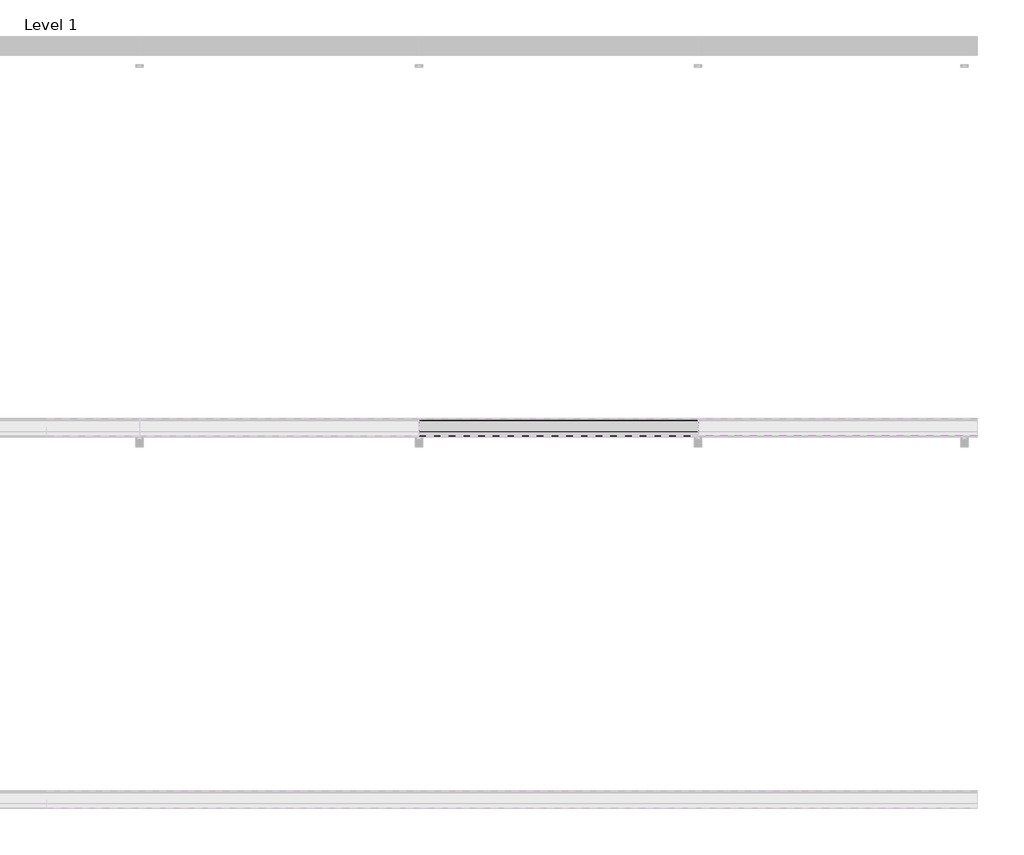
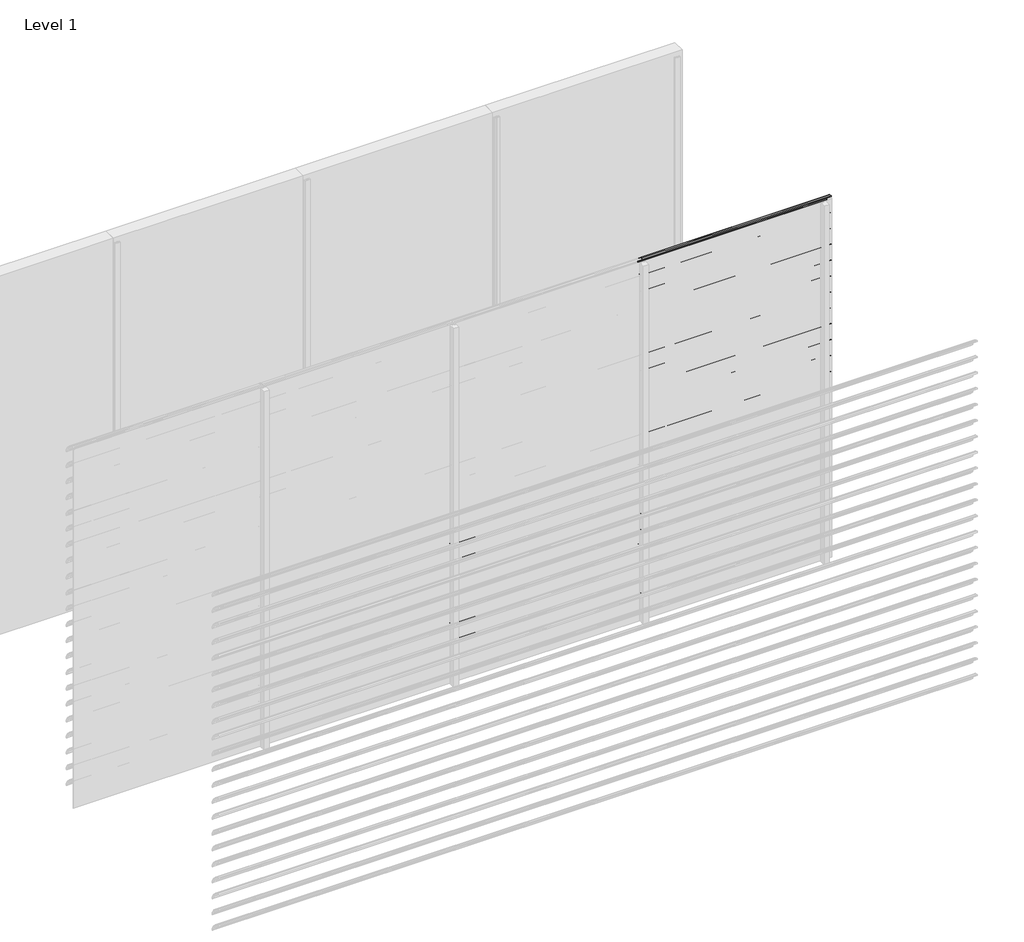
# One storey, part 29 of 57: 20 proxies.
"""IFC4 building model written with IfcOpenShell, lengths in millimetres."""

from ifc_helpers import new_model, si_unit, point, frame, frame_2d, origin, place, context, project, spatial, polyline, circle_curve, trimmed, segment, composite_curve, outline, extrude, element, save

model = new_model("IFC4")

# Units and contexts
model_context = context("Model", 3, world=origin())
ifc_project = project(units=[si_unit("LENGTHUNIT", "METRE", prefix="MILLI")], contexts=[model_context])

# Site, building, storey
site = spatial("IfcSite", under=ifc_project)
building = spatial("IfcBuilding", under=site)
storey = spatial("IfcBuildingStorey", under=building, Name="Level 1", Elevation=0.0)

# Proxies
placement = place(None, origin())
element("IfcBuildingElementProxy", 1, Name="Wall Sweeps", at=placement, inside=storey, context=model_context, shape_type="SweptSolid", body=[
    extrude(outline(composite_curve([segment(trimmed(circle_curve(frame_2d((-29993.7822526, 1154.4913792)), 4.2177474), [point((-29989.6985606, 1155.5462976))], [point((-29993.7822526, 1158.7091266))], False, "CARTESIAN"), True, "CONTINUOUS"), segment(trimmed(circle_curve(frame_2d((-30018.7150834, 1056.2536312)), 105.4456002), [point((-29993.7822526, 1158.7091266))], [point((-29971.7914298, 1150.6832099))], False, "CARTESIAN"), True, "CONTINUOUS"), segment(trimmed(circle_curve(frame_2d((-30061.7199745, 1002.0352476)), 173.7335887), [point((-29971.7914298, 1150.6832099))], [point((-29913.0720121, 1091.9637922))], False, "CARTESIAN"), True, "CONTINUOUS"), segment(trimmed(circle_curve(frame_2d((-30004.9297178, 1040.1860314)), 105.4456002), [point((-29913.0720121, 1091.9637922))], [point((-29903.6249616, 1069.4455765))], False, "CARTESIAN"), True, "CONTINUOUS"), segment(trimmed(circle_curve(frame_2d((-29907.809737, 1068.3307305)), 4.3307305), [point((-29903.6249616, 1069.4455765))], [point((-29909.0769196, 1064.189538))], False, "CARTESIAN"), True, "CONTINUOUS"), segment(polyline([(-29909.0769196, 1064.189538), (-29934.7401984, 1088.9722783)]), True, "CONTINUOUS"), segment(trimmed(circle_curve(frame_2d((-29931.3879574, 1091.2977626)), 4.079877), [point((-29934.7401984, 1088.9722783))], [point((-29930.7310597, 1095.3244091))], False, "CARTESIAN"), True, "CONTINUOUS"), segment(trimmed(circle_curve(frame_2d((-30014.6665585, 1073.2544323)), 86.7885467), [point((-29930.7310597, 1095.3244091))], [point((-29942.3028351, 1121.1683485))], True, "CARTESIAN"), True, "CONTINUOUS"), segment(polyline([(-29942.3028351, 1121.1683485), (-29940.7230099, 1123.9046861)]), True, "CONTINUOUS"), segment(trimmed(circle_curve(frame_2d((-30061.7199745, 1002.0352476)), 171.7335887), [point((-29940.7230099, 1123.9046861))], [point((-29972.7555872, 1148.9289618))], True, "CARTESIAN"), True, "CONTINUOUS"), segment(trimmed(circle_curve(frame_2d((-30018.7150834, 1056.2536312)), 103.4456002), [point((-29972.7555872, 1148.9289618))], [point((-29989.6985606, 1155.5462976))], True, "CARTESIAN"), True, "CONTINUOUS")], self_intersect=False)), frame((3000.0, 0.0, 0.0), z_axis=(1.0, 0.0, 0.0), x_axis=(0.0, 1.0, 0.0)), (0.0, 0.0, 1.0), 1500.0),
])
element("IfcBuildingElementProxy", 2, Name="Wall Sweeps", at=placement, inside=storey, context=model_context, shape_type="SweptSolid", body=[
    extrude(outline(composite_curve([segment(trimmed(circle_curve(frame_2d((-29993.7822526, 1021.4913792)), 4.2177474), [point((-29989.6985606, 1022.5462976))], [point((-29993.7822526, 1025.7091266))], False, "CARTESIAN"), True, "CONTINUOUS"), segment(trimmed(circle_curve(frame_2d((-30018.7150834, 923.2536312)), 105.4456002), [point((-29993.7822526, 1025.7091266))], [point((-29971.7914298, 1017.6832099))], False, "CARTESIAN"), True, "CONTINUOUS"), segment(trimmed(circle_curve(frame_2d((-30061.7199745, 869.0352476)), 173.7335887), [point((-29971.7914298, 1017.6832099))], [point((-29913.0720121, 958.9637922))], False, "CARTESIAN"), True, "CONTINUOUS"), segment(trimmed(circle_curve(frame_2d((-30004.9297178, 907.1860314)), 105.4456002), [point((-29913.0720121, 958.9637922))], [point((-29903.6249616, 936.4455765))], False, "CARTESIAN"), True, "CONTINUOUS"), segment(trimmed(circle_curve(frame_2d((-29907.809737, 935.3307305)), 4.3307305), [point((-29903.6249616, 936.4455765))], [point((-29909.0769196, 931.189538))], False, "CARTESIAN"), True, "CONTINUOUS"), segment(polyline([(-29909.0769196, 931.189538), (-29934.7401984, 955.9722783)]), True, "CONTINUOUS"), segment(trimmed(circle_curve(frame_2d((-29931.3879574, 958.2977626)), 4.079877), [point((-29934.7401984, 955.9722783))], [point((-29930.7310597, 962.3244091))], False, "CARTESIAN"), True, "CONTINUOUS"), segment(trimmed(circle_curve(frame_2d((-30014.6665585, 940.2544323)), 86.7885467), [point((-29930.7310597, 962.3244091))], [point((-29942.3028351, 988.1683485))], True, "CARTESIAN"), True, "CONTINUOUS"), segment(polyline([(-29942.3028351, 988.1683485), (-29940.7230099, 990.9046861)]), True, "CONTINUOUS"), segment(trimmed(circle_curve(frame_2d((-30061.7199745, 869.0352476)), 171.7335887), [point((-29940.7230099, 990.9046861))], [point((-29972.7555872, 1015.9289618))], True, "CARTESIAN"), True, "CONTINUOUS"), segment(trimmed(circle_curve(frame_2d((-30018.7150834, 923.2536312)), 103.4456002), [point((-29972.7555872, 1015.9289618))], [point((-29989.6985606, 1022.5462976))], True, "CARTESIAN"), True, "CONTINUOUS")], self_intersect=False)), frame((3000.0, 0.0, 0.0), z_axis=(1.0, 0.0, 0.0), x_axis=(0.0, 1.0, 0.0)), (0.0, 0.0, 1.0), 1500.0),
])
element("IfcBuildingElementProxy", 3, Name="Wall Sweeps", at=placement, inside=storey, context=model_context, shape_type="SweptSolid", body=[
    extrude(outline(composite_curve([segment(trimmed(circle_curve(frame_2d((-29993.7822526, 888.4913792)), 4.2177474), [point((-29989.6985606, 889.5462976))], [point((-29993.7822526, 892.7091266))], False, "CARTESIAN"), True, "CONTINUOUS"), segment(trimmed(circle_curve(frame_2d((-30018.7150834, 790.2536312)), 105.4456002), [point((-29993.7822526, 892.7091266))], [point((-29971.7914298, 884.6832099))], False, "CARTESIAN"), True, "CONTINUOUS"), segment(trimmed(circle_curve(frame_2d((-30061.7199745, 736.0352476)), 173.7335887), [point((-29971.7914298, 884.6832099))], [point((-29913.0720121, 825.9637922))], False, "CARTESIAN"), True, "CONTINUOUS"), segment(trimmed(circle_curve(frame_2d((-30004.9297178, 774.1860314)), 105.4456002), [point((-29913.0720121, 825.9637922))], [point((-29903.6249616, 803.4455765))], False, "CARTESIAN"), True, "CONTINUOUS"), segment(trimmed(circle_curve(frame_2d((-29907.809737, 802.3307305)), 4.3307305), [point((-29903.6249616, 803.4455765))], [point((-29909.0769196, 798.189538))], False, "CARTESIAN"), True, "CONTINUOUS"), segment(polyline([(-29909.0769196, 798.189538), (-29934.7401984, 822.9722783)]), True, "CONTINUOUS"), segment(trimmed(circle_curve(frame_2d((-29931.3879574, 825.2977626)), 4.079877), [point((-29934.7401984, 822.9722783))], [point((-29930.7310597, 829.3244091))], False, "CARTESIAN"), True, "CONTINUOUS"), segment(trimmed(circle_curve(frame_2d((-30014.6665585, 807.2544323)), 86.7885467), [point((-29930.7310597, 829.3244091))], [point((-29942.3028351, 855.1683485))], True, "CARTESIAN"), True, "CONTINUOUS"), segment(polyline([(-29942.3028351, 855.1683485), (-29940.7230099, 857.9046861)]), True, "CONTINUOUS"), segment(trimmed(circle_curve(frame_2d((-30061.7199745, 736.0352476)), 171.7335887), [point((-29940.7230099, 857.9046861))], [point((-29972.7555872, 882.9289618))], True, "CARTESIAN"), True, "CONTINUOUS"), segment(trimmed(circle_curve(frame_2d((-30018.7150834, 790.2536312)), 103.4456002), [point((-29972.7555872, 882.9289618))], [point((-29989.6985606, 889.5462976))], True, "CARTESIAN"), True, "CONTINUOUS")], self_intersect=False)), frame((3000.0, 0.0, 0.0), z_axis=(1.0, 0.0, 0.0), x_axis=(0.0, 1.0, 0.0)), (0.0, 0.0, 1.0), 1500.0),
])
element("IfcBuildingElementProxy", 4, Name="Wall Sweeps", at=placement, inside=storey, context=model_context, shape_type="SweptSolid", body=[
    extrude(outline(composite_curve([segment(trimmed(circle_curve(frame_2d((-29993.7822526, 755.4913792)), 4.2177474), [point((-29989.6985606, 756.5462976))], [point((-29993.7822526, 759.7091266))], False, "CARTESIAN"), True, "CONTINUOUS"), segment(trimmed(circle_curve(frame_2d((-30018.7150834, 657.2536312)), 105.4456002), [point((-29993.7822526, 759.7091266))], [point((-29971.7914298, 751.6832099))], False, "CARTESIAN"), True, "CONTINUOUS"), segment(trimmed(circle_curve(frame_2d((-30061.7199745, 603.0352476)), 173.7335887), [point((-29971.7914298, 751.6832099))], [point((-29913.0720121, 692.9637922))], False, "CARTESIAN"), True, "CONTINUOUS"), segment(trimmed(circle_curve(frame_2d((-30004.9297178, 641.1860314)), 105.4456002), [point((-29913.0720121, 692.9637922))], [point((-29903.6249616, 670.4455765))], False, "CARTESIAN"), True, "CONTINUOUS"), segment(trimmed(circle_curve(frame_2d((-29907.809737, 669.3307305)), 4.3307305), [point((-29903.6249616, 670.4455765))], [point((-29909.0769196, 665.189538))], False, "CARTESIAN"), True, "CONTINUOUS"), segment(polyline([(-29909.0769196, 665.189538), (-29934.7401984, 689.9722783)]), True, "CONTINUOUS"), segment(trimmed(circle_curve(frame_2d((-29931.3879574, 692.2977626)), 4.079877), [point((-29934.7401984, 689.9722783))], [point((-29930.7310597, 696.3244091))], False, "CARTESIAN"), True, "CONTINUOUS"), segment(trimmed(circle_curve(frame_2d((-30014.6665585, 674.2544323)), 86.7885467), [point((-29930.7310597, 696.3244091))], [point((-29942.3028351, 722.1683485))], True, "CARTESIAN"), True, "CONTINUOUS"), segment(polyline([(-29942.3028351, 722.1683485), (-29940.7230099, 724.9046861)]), True, "CONTINUOUS"), segment(trimmed(circle_curve(frame_2d((-30061.7199745, 603.0352476)), 171.7335887), [point((-29940.7230099, 724.9046861))], [point((-29972.7555872, 749.9289618))], True, "CARTESIAN"), True, "CONTINUOUS"), segment(trimmed(circle_curve(frame_2d((-30018.7150834, 657.2536312)), 103.4456002), [point((-29972.7555872, 749.9289618))], [point((-29989.6985606, 756.5462976))], True, "CARTESIAN"), True, "CONTINUOUS")], self_intersect=False)), frame((3000.0, 0.0, 0.0), z_axis=(1.0, 0.0, 0.0), x_axis=(0.0, 1.0, 0.0)), (0.0, 0.0, 1.0), 1500.0),
])
element("IfcBuildingElementProxy", 5, Name="Wall Sweeps", at=placement, inside=storey, context=model_context, shape_type="SweptSolid", body=[
    extrude(outline(composite_curve([segment(trimmed(circle_curve(frame_2d((-29993.7822526, 622.4913792)), 4.2177474), [point((-29989.6985606, 623.5462976))], [point((-29993.7822526, 626.7091266))], False, "CARTESIAN"), True, "CONTINUOUS"), segment(trimmed(circle_curve(frame_2d((-30018.7150834, 524.2536312)), 105.4456002), [point((-29993.7822526, 626.7091266))], [point((-29971.7914298, 618.6832099))], False, "CARTESIAN"), True, "CONTINUOUS"), segment(trimmed(circle_curve(frame_2d((-30061.7199745, 470.0352476)), 173.7335887), [point((-29971.7914298, 618.6832099))], [point((-29913.0720121, 559.9637922))], False, "CARTESIAN"), True, "CONTINUOUS"), segment(trimmed(circle_curve(frame_2d((-30004.9297178, 508.1860314)), 105.4456002), [point((-29913.0720121, 559.9637922))], [point((-29903.6249616, 537.4455765))], False, "CARTESIAN"), True, "CONTINUOUS"), segment(trimmed(circle_curve(frame_2d((-29907.809737, 536.3307305)), 4.3307305), [point((-29903.6249616, 537.4455765))], [point((-29909.0769196, 532.189538))], False, "CARTESIAN"), True, "CONTINUOUS"), segment(polyline([(-29909.0769196, 532.189538), (-29934.7401984, 556.9722783)]), True, "CONTINUOUS"), segment(trimmed(circle_curve(frame_2d((-29931.3879574, 559.2977626)), 4.079877), [point((-29934.7401984, 556.9722783))], [point((-29930.7310597, 563.3244091))], False, "CARTESIAN"), True, "CONTINUOUS"), segment(trimmed(circle_curve(frame_2d((-30014.6665585, 541.2544323)), 86.7885467), [point((-29930.7310597, 563.3244091))], [point((-29942.3028351, 589.1683485))], True, "CARTESIAN"), True, "CONTINUOUS"), segment(polyline([(-29942.3028351, 589.1683485), (-29940.7230099, 591.9046861)]), True, "CONTINUOUS"), segment(trimmed(circle_curve(frame_2d((-30061.7199745, 470.0352476)), 171.7335887), [point((-29940.7230099, 591.9046861))], [point((-29972.7555872, 616.9289618))], True, "CARTESIAN"), True, "CONTINUOUS"), segment(trimmed(circle_curve(frame_2d((-30018.7150834, 524.2536312)), 103.4456002), [point((-29972.7555872, 616.9289618))], [point((-29989.6985606, 623.5462976))], True, "CARTESIAN"), True, "CONTINUOUS")], self_intersect=False)), frame((3000.0, 0.0, 0.0), z_axis=(1.0, 0.0, 0.0), x_axis=(0.0, 1.0, 0.0)), (0.0, 0.0, 1.0), 1500.0),
])
element("IfcBuildingElementProxy", 6, Name="Wall Sweeps", at=placement, inside=storey, context=model_context, shape_type="SweptSolid", body=[
    extrude(outline(composite_curve([segment(trimmed(circle_curve(frame_2d((-29993.7822526, 489.4913792)), 4.2177474), [point((-29989.6985606, 490.5462976))], [point((-29993.7822526, 493.7091266))], False, "CARTESIAN"), True, "CONTINUOUS"), segment(trimmed(circle_curve(frame_2d((-30018.7150834, 391.2536312)), 105.4456002), [point((-29993.7822526, 493.7091266))], [point((-29971.7914298, 485.6832099))], False, "CARTESIAN"), True, "CONTINUOUS"), segment(trimmed(circle_curve(frame_2d((-30061.7199745, 337.0352476)), 173.7335887), [point((-29971.7914298, 485.6832099))], [point((-29913.0720121, 426.9637922))], False, "CARTESIAN"), True, "CONTINUOUS"), segment(trimmed(circle_curve(frame_2d((-30004.9297178, 375.1860314)), 105.4456002), [point((-29913.0720121, 426.9637922))], [point((-29903.6249616, 404.4455765))], False, "CARTESIAN"), True, "CONTINUOUS"), segment(trimmed(circle_curve(frame_2d((-29907.809737, 403.3307305)), 4.3307305), [point((-29903.6249616, 404.4455765))], [point((-29909.0769196, 399.189538))], False, "CARTESIAN"), True, "CONTINUOUS"), segment(polyline([(-29909.0769196, 399.189538), (-29934.7401984, 423.9722783)]), True, "CONTINUOUS"), segment(trimmed(circle_curve(frame_2d((-29931.3879574, 426.2977626)), 4.079877), [point((-29934.7401984, 423.9722783))], [point((-29930.7310597, 430.3244091))], False, "CARTESIAN"), True, "CONTINUOUS"), segment(trimmed(circle_curve(frame_2d((-30014.6665585, 408.2544323)), 86.7885467), [point((-29930.7310597, 430.3244091))], [point((-29942.3028351, 456.1683485))], True, "CARTESIAN"), True, "CONTINUOUS"), segment(polyline([(-29942.3028351, 456.1683485), (-29940.7230099, 458.9046861)]), True, "CONTINUOUS"), segment(trimmed(circle_curve(frame_2d((-30061.7199745, 337.0352476)), 171.7335887), [point((-29940.7230099, 458.9046861))], [point((-29972.7555872, 483.9289618))], True, "CARTESIAN"), True, "CONTINUOUS"), segment(trimmed(circle_curve(frame_2d((-30018.7150834, 391.2536312)), 103.4456002), [point((-29972.7555872, 483.9289618))], [point((-29989.6985606, 490.5462976))], True, "CARTESIAN"), True, "CONTINUOUS")], self_intersect=False)), frame((3000.0, 0.0, 0.0), z_axis=(1.0, 0.0, 0.0), x_axis=(0.0, 1.0, 0.0)), (0.0, 0.0, 1.0), 1500.0),
])
element("IfcBuildingElementProxy", 7, Name="Wall Sweeps", at=placement, inside=storey, context=model_context, shape_type="SweptSolid", body=[
    extrude(outline(composite_curve([segment(trimmed(circle_curve(frame_2d((-29993.7822526, 356.4913792)), 4.2177474), [point((-29989.6985606, 357.5462976))], [point((-29993.7822526, 360.7091266))], False, "CARTESIAN"), True, "CONTINUOUS"), segment(trimmed(circle_curve(frame_2d((-30018.7150834, 258.2536312)), 105.4456002), [point((-29993.7822526, 360.7091266))], [point((-29971.7914298, 352.6832099))], False, "CARTESIAN"), True, "CONTINUOUS"), segment(trimmed(circle_curve(frame_2d((-30061.7199745, 204.0352476)), 173.7335887), [point((-29971.7914298, 352.6832099))], [point((-29913.0720121, 293.9637922))], False, "CARTESIAN"), True, "CONTINUOUS"), segment(trimmed(circle_curve(frame_2d((-30004.9297178, 242.1860314)), 105.4456002), [point((-29913.0720121, 293.9637922))], [point((-29903.6249616, 271.4455765))], False, "CARTESIAN"), True, "CONTINUOUS"), segment(trimmed(circle_curve(frame_2d((-29907.809737, 270.3307305)), 4.3307305), [point((-29903.6249616, 271.4455765))], [point((-29909.0769196, 266.189538))], False, "CARTESIAN"), True, "CONTINUOUS"), segment(polyline([(-29909.0769196, 266.189538), (-29934.7401984, 290.9722783)]), True, "CONTINUOUS"), segment(trimmed(circle_curve(frame_2d((-29931.3879574, 293.2977626)), 4.079877), [point((-29934.7401984, 290.9722783))], [point((-29930.7310597, 297.3244091))], False, "CARTESIAN"), True, "CONTINUOUS"), segment(trimmed(circle_curve(frame_2d((-30014.6665585, 275.2544323)), 86.7885467), [point((-29930.7310597, 297.3244091))], [point((-29942.3028351, 323.1683485))], True, "CARTESIAN"), True, "CONTINUOUS"), segment(polyline([(-29942.3028351, 323.1683485), (-29940.7230099, 325.9046861)]), True, "CONTINUOUS"), segment(trimmed(circle_curve(frame_2d((-30061.7199745, 204.0352476)), 171.7335887), [point((-29940.7230099, 325.9046861))], [point((-29972.7555872, 350.9289618))], True, "CARTESIAN"), True, "CONTINUOUS"), segment(trimmed(circle_curve(frame_2d((-30018.7150834, 258.2536312)), 103.4456002), [point((-29972.7555872, 350.9289618))], [point((-29989.6985606, 357.5462976))], True, "CARTESIAN"), True, "CONTINUOUS")], self_intersect=False)), frame((3000.0, 0.0, 0.0), z_axis=(1.0, 0.0, 0.0), x_axis=(0.0, 1.0, 0.0)), (0.0, 0.0, 1.0), 1500.0),
])
element("IfcBuildingElementProxy", 8, Name="Wall Sweeps", at=placement, inside=storey, context=model_context, shape_type="SweptSolid", body=[
    extrude(outline(composite_curve([segment(trimmed(circle_curve(frame_2d((-29993.7822526, 223.4913792)), 4.2177474), [point((-29989.6985606, 224.5462976))], [point((-29993.7822526, 227.7091266))], False, "CARTESIAN"), True, "CONTINUOUS"), segment(trimmed(circle_curve(frame_2d((-30018.7150834, 125.2536312)), 105.4456002), [point((-29993.7822526, 227.7091266))], [point((-29971.7914298, 219.6832099))], False, "CARTESIAN"), True, "CONTINUOUS"), segment(trimmed(circle_curve(frame_2d((-30061.7199745, 71.0352476)), 173.7335887), [point((-29971.7914298, 219.6832099))], [point((-29913.0720121, 160.9637922))], False, "CARTESIAN"), True, "CONTINUOUS"), segment(trimmed(circle_curve(frame_2d((-30004.9297178, 109.1860314)), 105.4456002), [point((-29913.0720121, 160.9637922))], [point((-29903.6249616, 138.4455765))], False, "CARTESIAN"), True, "CONTINUOUS"), segment(trimmed(circle_curve(frame_2d((-29907.809737, 137.3307305)), 4.3307305), [point((-29903.6249616, 138.4455765))], [point((-29909.0769196, 133.189538))], False, "CARTESIAN"), True, "CONTINUOUS"), segment(polyline([(-29909.0769196, 133.189538), (-29934.7401984, 157.9722783)]), True, "CONTINUOUS"), segment(trimmed(circle_curve(frame_2d((-29931.3879574, 160.2977626)), 4.079877), [point((-29934.7401984, 157.9722783))], [point((-29930.7310597, 164.3244091))], False, "CARTESIAN"), True, "CONTINUOUS"), segment(trimmed(circle_curve(frame_2d((-30014.6665585, 142.2544323)), 86.7885467), [point((-29930.7310597, 164.3244091))], [point((-29942.3028351, 190.1683485))], True, "CARTESIAN"), True, "CONTINUOUS"), segment(polyline([(-29942.3028351, 190.1683485), (-29940.7230099, 192.9046861)]), True, "CONTINUOUS"), segment(trimmed(circle_curve(frame_2d((-30061.7199745, 71.0352476)), 171.7335887), [point((-29940.7230099, 192.9046861))], [point((-29972.7555872, 217.9289618))], True, "CARTESIAN"), True, "CONTINUOUS"), segment(trimmed(circle_curve(frame_2d((-30018.7150834, 125.2536312)), 103.4456002), [point((-29972.7555872, 217.9289618))], [point((-29989.6985606, 224.5462976))], True, "CARTESIAN"), True, "CONTINUOUS")], self_intersect=False)), frame((3000.0, 0.0, 0.0), z_axis=(1.0, 0.0, 0.0), x_axis=(0.0, 1.0, 0.0)), (0.0, 0.0, 1.0), 1500.0),
])
element("IfcBuildingElementProxy", 9, Name="Wall Sweeps", at=placement, inside=storey, context=model_context, shape_type="SweptSolid", body=[
    extrude(outline(composite_curve([segment(trimmed(circle_curve(frame_2d((-29993.7822526, 3016.4913792)), 4.2177474), [point((-29989.6985606, 3017.5462976))], [point((-29993.7822526, 3020.7091266))], False, "CARTESIAN"), True, "CONTINUOUS"), segment(trimmed(circle_curve(frame_2d((-30018.7150834, 2918.2536312)), 105.4456002), [point((-29993.7822526, 3020.7091266))], [point((-29971.7914298, 3012.6832099))], False, "CARTESIAN"), True, "CONTINUOUS"), segment(trimmed(circle_curve(frame_2d((-30061.7199745, 2864.0352476)), 173.7335887), [point((-29971.7914298, 3012.6832099))], [point((-29913.0720121, 2953.9637922))], False, "CARTESIAN"), True, "CONTINUOUS"), segment(trimmed(circle_curve(frame_2d((-30004.9297178, 2902.1860314)), 105.4456002), [point((-29913.0720121, 2953.9637922))], [point((-29903.6249616, 2931.4455765))], False, "CARTESIAN"), True, "CONTINUOUS"), segment(trimmed(circle_curve(frame_2d((-29907.809737, 2930.3307305)), 4.3307305), [point((-29903.6249616, 2931.4455765))], [point((-29909.0769196, 2926.189538))], False, "CARTESIAN"), True, "CONTINUOUS"), segment(polyline([(-29909.0769196, 2926.189538), (-29934.7401984, 2950.9722783)]), True, "CONTINUOUS"), segment(trimmed(circle_curve(frame_2d((-29931.3879574, 2953.2977626)), 4.079877), [point((-29934.7401984, 2950.9722783))], [point((-29930.7310597, 2957.3244091))], False, "CARTESIAN"), True, "CONTINUOUS"), segment(trimmed(circle_curve(frame_2d((-30014.6665585, 2935.2544323)), 86.7885467), [point((-29930.7310597, 2957.3244091))], [point((-29942.3028351, 2983.1683485))], True, "CARTESIAN"), True, "CONTINUOUS"), segment(polyline([(-29942.3028351, 2983.1683485), (-29940.7230099, 2985.9046861)]), True, "CONTINUOUS"), segment(trimmed(circle_curve(frame_2d((-30061.7199745, 2864.0352476)), 171.7335887), [point((-29940.7230099, 2985.9046861))], [point((-29972.7555872, 3010.9289618))], True, "CARTESIAN"), True, "CONTINUOUS"), segment(trimmed(circle_curve(frame_2d((-30018.7150834, 2918.2536312)), 103.4456002), [point((-29972.7555872, 3010.9289618))], [point((-29989.6985606, 3017.5462976))], True, "CARTESIAN"), True, "CONTINUOUS")], self_intersect=False)), frame((4500.0, 0.0, 0.0), z_axis=(1.0, 0.0, 0.0), x_axis=(0.0, 1.0, 0.0)), (0.0, 0.0, 1.0), 1500.0),
])
element("IfcBuildingElementProxy", 10, Name="Wall Sweeps", at=placement, inside=storey, context=model_context, shape_type="SweptSolid", body=[
    extrude(outline(composite_curve([segment(trimmed(circle_curve(frame_2d((-29993.7822526, 2883.4913792)), 4.2177474), [point((-29989.6985606, 2884.5462976))], [point((-29993.7822526, 2887.7091266))], False, "CARTESIAN"), True, "CONTINUOUS"), segment(trimmed(circle_curve(frame_2d((-30018.7150834, 2785.2536312)), 105.4456002), [point((-29993.7822526, 2887.7091266))], [point((-29971.7914298, 2879.6832099))], False, "CARTESIAN"), True, "CONTINUOUS"), segment(trimmed(circle_curve(frame_2d((-30061.7199745, 2731.0352476)), 173.7335887), [point((-29971.7914298, 2879.6832099))], [point((-29913.0720121, 2820.9637922))], False, "CARTESIAN"), True, "CONTINUOUS"), segment(trimmed(circle_curve(frame_2d((-30004.9297178, 2769.1860314)), 105.4456002), [point((-29913.0720121, 2820.9637922))], [point((-29903.6249616, 2798.4455765))], False, "CARTESIAN"), True, "CONTINUOUS"), segment(trimmed(circle_curve(frame_2d((-29907.809737, 2797.3307305)), 4.3307305), [point((-29903.6249616, 2798.4455765))], [point((-29909.0769196, 2793.189538))], False, "CARTESIAN"), True, "CONTINUOUS"), segment(polyline([(-29909.0769196, 2793.189538), (-29934.7401984, 2817.9722783)]), True, "CONTINUOUS"), segment(trimmed(circle_curve(frame_2d((-29931.3879574, 2820.2977626)), 4.079877), [point((-29934.7401984, 2817.9722783))], [point((-29930.7310597, 2824.3244091))], False, "CARTESIAN"), True, "CONTINUOUS"), segment(trimmed(circle_curve(frame_2d((-30014.6665585, 2802.2544323)), 86.7885467), [point((-29930.7310597, 2824.3244091))], [point((-29942.3028351, 2850.1683485))], True, "CARTESIAN"), True, "CONTINUOUS"), segment(polyline([(-29942.3028351, 2850.1683485), (-29940.7230099, 2852.9046861)]), True, "CONTINUOUS"), segment(trimmed(circle_curve(frame_2d((-30061.7199745, 2731.0352476)), 171.7335887), [point((-29940.7230099, 2852.9046861))], [point((-29972.7555872, 2877.9289618))], True, "CARTESIAN"), True, "CONTINUOUS"), segment(trimmed(circle_curve(frame_2d((-30018.7150834, 2785.2536312)), 103.4456002), [point((-29972.7555872, 2877.9289618))], [point((-29989.6985606, 2884.5462976))], True, "CARTESIAN"), True, "CONTINUOUS")], self_intersect=False)), frame((4500.0, 0.0, 0.0), z_axis=(1.0, 0.0, 0.0), x_axis=(0.0, 1.0, 0.0)), (0.0, 0.0, 1.0), 1500.0),
])
element("IfcBuildingElementProxy", 11, Name="Wall Sweeps", at=placement, inside=storey, context=model_context, shape_type="SweptSolid", body=[
    extrude(outline(composite_curve([segment(trimmed(circle_curve(frame_2d((-29993.7822526, 2750.4913792)), 4.2177474), [point((-29989.6985606, 2751.5462976))], [point((-29993.7822526, 2754.7091266))], False, "CARTESIAN"), True, "CONTINUOUS"), segment(trimmed(circle_curve(frame_2d((-30018.7150834, 2652.2536312)), 105.4456002), [point((-29993.7822526, 2754.7091266))], [point((-29971.7914298, 2746.6832099))], False, "CARTESIAN"), True, "CONTINUOUS"), segment(trimmed(circle_curve(frame_2d((-30061.7199745, 2598.0352476)), 173.7335887), [point((-29971.7914298, 2746.6832099))], [point((-29913.0720121, 2687.9637922))], False, "CARTESIAN"), True, "CONTINUOUS"), segment(trimmed(circle_curve(frame_2d((-30004.9297178, 2636.1860314)), 105.4456002), [point((-29913.0720121, 2687.9637922))], [point((-29903.6249616, 2665.4455765))], False, "CARTESIAN"), True, "CONTINUOUS"), segment(trimmed(circle_curve(frame_2d((-29907.809737, 2664.3307305)), 4.3307305), [point((-29903.6249616, 2665.4455765))], [point((-29909.0769196, 2660.189538))], False, "CARTESIAN"), True, "CONTINUOUS"), segment(polyline([(-29909.0769196, 2660.189538), (-29934.7401984, 2684.9722783)]), True, "CONTINUOUS"), segment(trimmed(circle_curve(frame_2d((-29931.3879574, 2687.2977626)), 4.079877), [point((-29934.7401984, 2684.9722783))], [point((-29930.7310597, 2691.3244091))], False, "CARTESIAN"), True, "CONTINUOUS"), segment(trimmed(circle_curve(frame_2d((-30014.6665585, 2669.2544323)), 86.7885467), [point((-29930.7310597, 2691.3244091))], [point((-29942.3028351, 2717.1683485))], True, "CARTESIAN"), True, "CONTINUOUS"), segment(polyline([(-29942.3028351, 2717.1683485), (-29940.7230099, 2719.9046861)]), True, "CONTINUOUS"), segment(trimmed(circle_curve(frame_2d((-30061.7199745, 2598.0352476)), 171.7335887), [point((-29940.7230099, 2719.9046861))], [point((-29972.7555872, 2744.9289618))], True, "CARTESIAN"), True, "CONTINUOUS"), segment(trimmed(circle_curve(frame_2d((-30018.7150834, 2652.2536312)), 103.4456002), [point((-29972.7555872, 2744.9289618))], [point((-29989.6985606, 2751.5462976))], True, "CARTESIAN"), True, "CONTINUOUS")], self_intersect=False)), frame((4500.0, 0.0, 0.0), z_axis=(1.0, 0.0, 0.0), x_axis=(0.0, 1.0, 0.0)), (0.0, 0.0, 1.0), 1500.0),
])
element("IfcBuildingElementProxy", 12, Name="Wall Sweeps", at=placement, inside=storey, context=model_context, shape_type="SweptSolid", body=[
    extrude(outline(composite_curve([segment(trimmed(circle_curve(frame_2d((-29993.7822526, 2617.4913792)), 4.2177474), [point((-29989.6985606, 2618.5462976))], [point((-29993.7822526, 2621.7091266))], False, "CARTESIAN"), True, "CONTINUOUS"), segment(trimmed(circle_curve(frame_2d((-30018.7150834, 2519.2536312)), 105.4456002), [point((-29993.7822526, 2621.7091266))], [point((-29971.7914298, 2613.6832099))], False, "CARTESIAN"), True, "CONTINUOUS"), segment(trimmed(circle_curve(frame_2d((-30061.7199745, 2465.0352476)), 173.7335887), [point((-29971.7914298, 2613.6832099))], [point((-29913.0720121, 2554.9637922))], False, "CARTESIAN"), True, "CONTINUOUS"), segment(trimmed(circle_curve(frame_2d((-30004.9297178, 2503.1860314)), 105.4456002), [point((-29913.0720121, 2554.9637922))], [point((-29903.6249616, 2532.4455765))], False, "CARTESIAN"), True, "CONTINUOUS"), segment(trimmed(circle_curve(frame_2d((-29907.809737, 2531.3307305)), 4.3307305), [point((-29903.6249616, 2532.4455765))], [point((-29909.0769196, 2527.189538))], False, "CARTESIAN"), True, "CONTINUOUS"), segment(polyline([(-29909.0769196, 2527.189538), (-29934.7401984, 2551.9722783)]), True, "CONTINUOUS"), segment(trimmed(circle_curve(frame_2d((-29931.3879574, 2554.2977626)), 4.079877), [point((-29934.7401984, 2551.9722783))], [point((-29930.7310597, 2558.3244091))], False, "CARTESIAN"), True, "CONTINUOUS"), segment(trimmed(circle_curve(frame_2d((-30014.6665585, 2536.2544323)), 86.7885467), [point((-29930.7310597, 2558.3244091))], [point((-29942.3028351, 2584.1683485))], True, "CARTESIAN"), True, "CONTINUOUS"), segment(polyline([(-29942.3028351, 2584.1683485), (-29940.7230099, 2586.9046861)]), True, "CONTINUOUS"), segment(trimmed(circle_curve(frame_2d((-30061.7199745, 2465.0352476)), 171.7335887), [point((-29940.7230099, 2586.9046861))], [point((-29972.7555872, 2611.9289618))], True, "CARTESIAN"), True, "CONTINUOUS"), segment(trimmed(circle_curve(frame_2d((-30018.7150834, 2519.2536312)), 103.4456002), [point((-29972.7555872, 2611.9289618))], [point((-29989.6985606, 2618.5462976))], True, "CARTESIAN"), True, "CONTINUOUS")], self_intersect=False)), frame((4500.0, 0.0, 0.0), z_axis=(1.0, 0.0, 0.0), x_axis=(0.0, 1.0, 0.0)), (0.0, 0.0, 1.0), 1500.0),
])
element("IfcBuildingElementProxy", 13, Name="Wall Sweeps", at=placement, inside=storey, context=model_context, shape_type="SweptSolid", body=[
    extrude(outline(composite_curve([segment(trimmed(circle_curve(frame_2d((-29993.7822526, 2484.4913792)), 4.2177474), [point((-29989.6985606, 2485.5462976))], [point((-29993.7822526, 2488.7091266))], False, "CARTESIAN"), True, "CONTINUOUS"), segment(trimmed(circle_curve(frame_2d((-30018.7150834, 2386.2536312)), 105.4456002), [point((-29993.7822526, 2488.7091266))], [point((-29971.7914298, 2480.6832099))], False, "CARTESIAN"), True, "CONTINUOUS"), segment(trimmed(circle_curve(frame_2d((-30061.7199745, 2332.0352476)), 173.7335887), [point((-29971.7914298, 2480.6832099))], [point((-29913.0720121, 2421.9637922))], False, "CARTESIAN"), True, "CONTINUOUS"), segment(trimmed(circle_curve(frame_2d((-30004.9297178, 2370.1860314)), 105.4456002), [point((-29913.0720121, 2421.9637922))], [point((-29903.6249616, 2399.4455765))], False, "CARTESIAN"), True, "CONTINUOUS"), segment(trimmed(circle_curve(frame_2d((-29907.809737, 2398.3307305)), 4.3307305), [point((-29903.6249616, 2399.4455765))], [point((-29909.0769196, 2394.189538))], False, "CARTESIAN"), True, "CONTINUOUS"), segment(polyline([(-29909.0769196, 2394.189538), (-29934.7401984, 2418.9722783)]), True, "CONTINUOUS"), segment(trimmed(circle_curve(frame_2d((-29931.3879574, 2421.2977626)), 4.079877), [point((-29934.7401984, 2418.9722783))], [point((-29930.7310597, 2425.3244091))], False, "CARTESIAN"), True, "CONTINUOUS"), segment(trimmed(circle_curve(frame_2d((-30014.6665585, 2403.2544323)), 86.7885467), [point((-29930.7310597, 2425.3244091))], [point((-29942.3028351, 2451.1683485))], True, "CARTESIAN"), True, "CONTINUOUS"), segment(polyline([(-29942.3028351, 2451.1683485), (-29940.7230099, 2453.9046861)]), True, "CONTINUOUS"), segment(trimmed(circle_curve(frame_2d((-30061.7199745, 2332.0352476)), 171.7335887), [point((-29940.7230099, 2453.9046861))], [point((-29972.7555872, 2478.9289618))], True, "CARTESIAN"), True, "CONTINUOUS"), segment(trimmed(circle_curve(frame_2d((-30018.7150834, 2386.2536312)), 103.4456002), [point((-29972.7555872, 2478.9289618))], [point((-29989.6985606, 2485.5462976))], True, "CARTESIAN"), True, "CONTINUOUS")], self_intersect=False)), frame((4500.0, 0.0, 0.0), z_axis=(1.0, 0.0, 0.0), x_axis=(0.0, 1.0, 0.0)), (0.0, 0.0, 1.0), 1500.0),
])
element("IfcBuildingElementProxy", 14, Name="Wall Sweeps", at=placement, inside=storey, context=model_context, shape_type="SweptSolid", body=[
    extrude(outline(composite_curve([segment(trimmed(circle_curve(frame_2d((-29993.7822526, 2351.4913792)), 4.2177474), [point((-29989.6985606, 2352.5462976))], [point((-29993.7822526, 2355.7091266))], False, "CARTESIAN"), True, "CONTINUOUS"), segment(trimmed(circle_curve(frame_2d((-30018.7150834, 2253.2536312)), 105.4456002), [point((-29993.7822526, 2355.7091266))], [point((-29971.7914298, 2347.6832099))], False, "CARTESIAN"), True, "CONTINUOUS"), segment(trimmed(circle_curve(frame_2d((-30061.7199745, 2199.0352476)), 173.7335887), [point((-29971.7914298, 2347.6832099))], [point((-29913.0720121, 2288.9637922))], False, "CARTESIAN"), True, "CONTINUOUS"), segment(trimmed(circle_curve(frame_2d((-30004.9297178, 2237.1860314)), 105.4456002), [point((-29913.0720121, 2288.9637922))], [point((-29903.6249616, 2266.4455765))], False, "CARTESIAN"), True, "CONTINUOUS"), segment(trimmed(circle_curve(frame_2d((-29907.809737, 2265.3307305)), 4.3307305), [point((-29903.6249616, 2266.4455765))], [point((-29909.0769196, 2261.189538))], False, "CARTESIAN"), True, "CONTINUOUS"), segment(polyline([(-29909.0769196, 2261.189538), (-29934.7401984, 2285.9722783)]), True, "CONTINUOUS"), segment(trimmed(circle_curve(frame_2d((-29931.3879574, 2288.2977626)), 4.079877), [point((-29934.7401984, 2285.9722783))], [point((-29930.7310597, 2292.3244091))], False, "CARTESIAN"), True, "CONTINUOUS"), segment(trimmed(circle_curve(frame_2d((-30014.6665585, 2270.2544323)), 86.7885467), [point((-29930.7310597, 2292.3244091))], [point((-29942.3028351, 2318.1683485))], True, "CARTESIAN"), True, "CONTINUOUS"), segment(polyline([(-29942.3028351, 2318.1683485), (-29940.7230099, 2320.9046861)]), True, "CONTINUOUS"), segment(trimmed(circle_curve(frame_2d((-30061.7199745, 2199.0352476)), 171.7335887), [point((-29940.7230099, 2320.9046861))], [point((-29972.7555872, 2345.9289618))], True, "CARTESIAN"), True, "CONTINUOUS"), segment(trimmed(circle_curve(frame_2d((-30018.7150834, 2253.2536312)), 103.4456002), [point((-29972.7555872, 2345.9289618))], [point((-29989.6985606, 2352.5462976))], True, "CARTESIAN"), True, "CONTINUOUS")], self_intersect=False)), frame((4500.0, 0.0, 0.0), z_axis=(1.0, 0.0, 0.0), x_axis=(0.0, 1.0, 0.0)), (0.0, 0.0, 1.0), 1500.0),
])
element("IfcBuildingElementProxy", 15, Name="Wall Sweeps", at=placement, inside=storey, context=model_context, shape_type="SweptSolid", body=[
    extrude(outline(composite_curve([segment(trimmed(circle_curve(frame_2d((-29993.7822526, 2218.4913792)), 4.2177474), [point((-29989.6985606, 2219.5462976))], [point((-29993.7822526, 2222.7091266))], False, "CARTESIAN"), True, "CONTINUOUS"), segment(trimmed(circle_curve(frame_2d((-30018.7150834, 2120.2536312)), 105.4456002), [point((-29993.7822526, 2222.7091266))], [point((-29971.7914298, 2214.6832099))], False, "CARTESIAN"), True, "CONTINUOUS"), segment(trimmed(circle_curve(frame_2d((-30061.7199745, 2066.0352476)), 173.7335887), [point((-29971.7914298, 2214.6832099))], [point((-29913.0720121, 2155.9637922))], False, "CARTESIAN"), True, "CONTINUOUS"), segment(trimmed(circle_curve(frame_2d((-30004.9297178, 2104.1860314)), 105.4456002), [point((-29913.0720121, 2155.9637922))], [point((-29903.6249616, 2133.4455765))], False, "CARTESIAN"), True, "CONTINUOUS"), segment(trimmed(circle_curve(frame_2d((-29907.809737, 2132.3307305)), 4.3307305), [point((-29903.6249616, 2133.4455765))], [point((-29909.0769196, 2128.189538))], False, "CARTESIAN"), True, "CONTINUOUS"), segment(polyline([(-29909.0769196, 2128.189538), (-29934.7401984, 2152.9722783)]), True, "CONTINUOUS"), segment(trimmed(circle_curve(frame_2d((-29931.3879574, 2155.2977626)), 4.079877), [point((-29934.7401984, 2152.9722783))], [point((-29930.7310597, 2159.3244091))], False, "CARTESIAN"), True, "CONTINUOUS"), segment(trimmed(circle_curve(frame_2d((-30014.6665585, 2137.2544323)), 86.7885467), [point((-29930.7310597, 2159.3244091))], [point((-29942.3028351, 2185.1683485))], True, "CARTESIAN"), True, "CONTINUOUS"), segment(polyline([(-29942.3028351, 2185.1683485), (-29940.7230099, 2187.9046861)]), True, "CONTINUOUS"), segment(trimmed(circle_curve(frame_2d((-30061.7199745, 2066.0352476)), 171.7335887), [point((-29940.7230099, 2187.9046861))], [point((-29972.7555872, 2212.9289618))], True, "CARTESIAN"), True, "CONTINUOUS"), segment(trimmed(circle_curve(frame_2d((-30018.7150834, 2120.2536312)), 103.4456002), [point((-29972.7555872, 2212.9289618))], [point((-29989.6985606, 2219.5462976))], True, "CARTESIAN"), True, "CONTINUOUS")], self_intersect=False)), frame((4500.0, 0.0, 0.0), z_axis=(1.0, 0.0, 0.0), x_axis=(0.0, 1.0, 0.0)), (0.0, 0.0, 1.0), 1500.0),
])
element("IfcBuildingElementProxy", 16, Name="Wall Sweeps", at=placement, inside=storey, context=model_context, shape_type="SweptSolid", body=[
    extrude(outline(composite_curve([segment(trimmed(circle_curve(frame_2d((-29993.7822526, 2085.4913792)), 4.2177474), [point((-29989.6985606, 2086.5462976))], [point((-29993.7822526, 2089.7091266))], False, "CARTESIAN"), True, "CONTINUOUS"), segment(trimmed(circle_curve(frame_2d((-30018.7150834, 1987.2536312)), 105.4456002), [point((-29993.7822526, 2089.7091266))], [point((-29971.7914298, 2081.6832099))], False, "CARTESIAN"), True, "CONTINUOUS"), segment(trimmed(circle_curve(frame_2d((-30061.7199745, 1933.0352476)), 173.7335887), [point((-29971.7914298, 2081.6832099))], [point((-29913.0720121, 2022.9637922))], False, "CARTESIAN"), True, "CONTINUOUS"), segment(trimmed(circle_curve(frame_2d((-30004.9297178, 1971.1860314)), 105.4456002), [point((-29913.0720121, 2022.9637922))], [point((-29903.6249616, 2000.4455765))], False, "CARTESIAN"), True, "CONTINUOUS"), segment(trimmed(circle_curve(frame_2d((-29907.809737, 1999.3307305)), 4.3307305), [point((-29903.6249616, 2000.4455765))], [point((-29909.0769196, 1995.189538))], False, "CARTESIAN"), True, "CONTINUOUS"), segment(polyline([(-29909.0769196, 1995.189538), (-29934.7401984, 2019.9722783)]), True, "CONTINUOUS"), segment(trimmed(circle_curve(frame_2d((-29931.3879574, 2022.2977626)), 4.079877), [point((-29934.7401984, 2019.9722783))], [point((-29930.7310597, 2026.3244091))], False, "CARTESIAN"), True, "CONTINUOUS"), segment(trimmed(circle_curve(frame_2d((-30014.6665585, 2004.2544323)), 86.7885467), [point((-29930.7310597, 2026.3244091))], [point((-29942.3028351, 2052.1683485))], True, "CARTESIAN"), True, "CONTINUOUS"), segment(polyline([(-29942.3028351, 2052.1683485), (-29940.7230099, 2054.9046861)]), True, "CONTINUOUS"), segment(trimmed(circle_curve(frame_2d((-30061.7199745, 1933.0352476)), 171.7335887), [point((-29940.7230099, 2054.9046861))], [point((-29972.7555872, 2079.9289618))], True, "CARTESIAN"), True, "CONTINUOUS"), segment(trimmed(circle_curve(frame_2d((-30018.7150834, 1987.2536312)), 103.4456002), [point((-29972.7555872, 2079.9289618))], [point((-29989.6985606, 2086.5462976))], True, "CARTESIAN"), True, "CONTINUOUS")], self_intersect=False)), frame((4500.0, 0.0, 0.0), z_axis=(1.0, 0.0, 0.0), x_axis=(0.0, 1.0, 0.0)), (0.0, 0.0, 1.0), 1500.0),
])
element("IfcBuildingElementProxy", 17, Name="Wall Sweeps", at=placement, inside=storey, context=model_context, shape_type="SweptSolid", body=[
    extrude(outline(composite_curve([segment(trimmed(circle_curve(frame_2d((-29993.7822526, 1952.4913792)), 4.2177474), [point((-29989.6985606, 1953.5462976))], [point((-29993.7822526, 1956.7091266))], False, "CARTESIAN"), True, "CONTINUOUS"), segment(trimmed(circle_curve(frame_2d((-30018.7150834, 1854.2536312)), 105.4456002), [point((-29993.7822526, 1956.7091266))], [point((-29971.7914298, 1948.6832099))], False, "CARTESIAN"), True, "CONTINUOUS"), segment(trimmed(circle_curve(frame_2d((-30061.7199745, 1800.0352476)), 173.7335887), [point((-29971.7914298, 1948.6832099))], [point((-29913.0720121, 1889.9637922))], False, "CARTESIAN"), True, "CONTINUOUS"), segment(trimmed(circle_curve(frame_2d((-30004.9297178, 1838.1860314)), 105.4456002), [point((-29913.0720121, 1889.9637922))], [point((-29903.6249616, 1867.4455765))], False, "CARTESIAN"), True, "CONTINUOUS"), segment(trimmed(circle_curve(frame_2d((-29907.809737, 1866.3307305)), 4.3307305), [point((-29903.6249616, 1867.4455765))], [point((-29909.0769196, 1862.189538))], False, "CARTESIAN"), True, "CONTINUOUS"), segment(polyline([(-29909.0769196, 1862.189538), (-29934.7401984, 1886.9722783)]), True, "CONTINUOUS"), segment(trimmed(circle_curve(frame_2d((-29931.3879574, 1889.2977626)), 4.079877), [point((-29934.7401984, 1886.9722783))], [point((-29930.7310597, 1893.3244091))], False, "CARTESIAN"), True, "CONTINUOUS"), segment(trimmed(circle_curve(frame_2d((-30014.6665585, 1871.2544323)), 86.7885467), [point((-29930.7310597, 1893.3244091))], [point((-29942.3028351, 1919.1683485))], True, "CARTESIAN"), True, "CONTINUOUS"), segment(polyline([(-29942.3028351, 1919.1683485), (-29940.7230099, 1921.9046861)]), True, "CONTINUOUS"), segment(trimmed(circle_curve(frame_2d((-30061.7199745, 1800.0352476)), 171.7335887), [point((-29940.7230099, 1921.9046861))], [point((-29972.7555872, 1946.9289618))], True, "CARTESIAN"), True, "CONTINUOUS"), segment(trimmed(circle_curve(frame_2d((-30018.7150834, 1854.2536312)), 103.4456002), [point((-29972.7555872, 1946.9289618))], [point((-29989.6985606, 1953.5462976))], True, "CARTESIAN"), True, "CONTINUOUS")], self_intersect=False)), frame((4500.0, 0.0, 0.0), z_axis=(1.0, 0.0, 0.0), x_axis=(0.0, 1.0, 0.0)), (0.0, 0.0, 1.0), 1500.0),
])
element("IfcBuildingElementProxy", 18, Name="Wall Sweeps", at=placement, inside=storey, context=model_context, shape_type="SweptSolid", body=[
    extrude(outline(composite_curve([segment(trimmed(circle_curve(frame_2d((-29993.7822526, 1819.4913792)), 4.2177474), [point((-29989.6985606, 1820.5462976))], [point((-29993.7822526, 1823.7091266))], False, "CARTESIAN"), True, "CONTINUOUS"), segment(trimmed(circle_curve(frame_2d((-30018.7150834, 1721.2536312)), 105.4456002), [point((-29993.7822526, 1823.7091266))], [point((-29971.7914298, 1815.6832099))], False, "CARTESIAN"), True, "CONTINUOUS"), segment(trimmed(circle_curve(frame_2d((-30061.7199745, 1667.0352476)), 173.7335887), [point((-29971.7914298, 1815.6832099))], [point((-29913.0720121, 1756.9637922))], False, "CARTESIAN"), True, "CONTINUOUS"), segment(trimmed(circle_curve(frame_2d((-30004.9297178, 1705.1860314)), 105.4456002), [point((-29913.0720121, 1756.9637922))], [point((-29903.6249616, 1734.4455765))], False, "CARTESIAN"), True, "CONTINUOUS"), segment(trimmed(circle_curve(frame_2d((-29907.809737, 1733.3307305)), 4.3307305), [point((-29903.6249616, 1734.4455765))], [point((-29909.0769196, 1729.189538))], False, "CARTESIAN"), True, "CONTINUOUS"), segment(polyline([(-29909.0769196, 1729.189538), (-29934.7401984, 1753.9722783)]), True, "CONTINUOUS"), segment(trimmed(circle_curve(frame_2d((-29931.3879574, 1756.2977626)), 4.079877), [point((-29934.7401984, 1753.9722783))], [point((-29930.7310597, 1760.3244091))], False, "CARTESIAN"), True, "CONTINUOUS"), segment(trimmed(circle_curve(frame_2d((-30014.6665585, 1738.2544323)), 86.7885467), [point((-29930.7310597, 1760.3244091))], [point((-29942.3028351, 1786.1683485))], True, "CARTESIAN"), True, "CONTINUOUS"), segment(polyline([(-29942.3028351, 1786.1683485), (-29940.7230099, 1788.9046861)]), True, "CONTINUOUS"), segment(trimmed(circle_curve(frame_2d((-30061.7199745, 1667.0352476)), 171.7335887), [point((-29940.7230099, 1788.9046861))], [point((-29972.7555872, 1813.9289618))], True, "CARTESIAN"), True, "CONTINUOUS"), segment(trimmed(circle_curve(frame_2d((-30018.7150834, 1721.2536312)), 103.4456002), [point((-29972.7555872, 1813.9289618))], [point((-29989.6985606, 1820.5462976))], True, "CARTESIAN"), True, "CONTINUOUS")], self_intersect=False)), frame((4500.0, 0.0, 0.0), z_axis=(1.0, 0.0, 0.0), x_axis=(0.0, 1.0, 0.0)), (0.0, 0.0, 1.0), 1500.0),
])
element("IfcBuildingElementProxy", 19, Name="Wall Sweeps", at=placement, inside=storey, context=model_context, shape_type="SweptSolid", body=[
    extrude(outline(composite_curve([segment(trimmed(circle_curve(frame_2d((-29993.7822526, 1686.4913792)), 4.2177474), [point((-29989.6985606, 1687.5462976))], [point((-29993.7822526, 1690.7091266))], False, "CARTESIAN"), True, "CONTINUOUS"), segment(trimmed(circle_curve(frame_2d((-30018.7150834, 1588.2536312)), 105.4456002), [point((-29993.7822526, 1690.7091266))], [point((-29971.7914298, 1682.6832099))], False, "CARTESIAN"), True, "CONTINUOUS"), segment(trimmed(circle_curve(frame_2d((-30061.7199745, 1534.0352476)), 173.7335887), [point((-29971.7914298, 1682.6832099))], [point((-29913.0720121, 1623.9637922))], False, "CARTESIAN"), True, "CONTINUOUS"), segment(trimmed(circle_curve(frame_2d((-30004.9297178, 1572.1860314)), 105.4456002), [point((-29913.0720121, 1623.9637922))], [point((-29903.6249616, 1601.4455765))], False, "CARTESIAN"), True, "CONTINUOUS"), segment(trimmed(circle_curve(frame_2d((-29907.809737, 1600.3307305)), 4.3307305), [point((-29903.6249616, 1601.4455765))], [point((-29909.0769196, 1596.189538))], False, "CARTESIAN"), True, "CONTINUOUS"), segment(polyline([(-29909.0769196, 1596.189538), (-29934.7401984, 1620.9722783)]), True, "CONTINUOUS"), segment(trimmed(circle_curve(frame_2d((-29931.3879574, 1623.2977626)), 4.079877), [point((-29934.7401984, 1620.9722783))], [point((-29930.7310597, 1627.3244091))], False, "CARTESIAN"), True, "CONTINUOUS"), segment(trimmed(circle_curve(frame_2d((-30014.6665585, 1605.2544323)), 86.7885467), [point((-29930.7310597, 1627.3244091))], [point((-29942.3028351, 1653.1683485))], True, "CARTESIAN"), True, "CONTINUOUS"), segment(polyline([(-29942.3028351, 1653.1683485), (-29940.7230099, 1655.9046861)]), True, "CONTINUOUS"), segment(trimmed(circle_curve(frame_2d((-30061.7199745, 1534.0352476)), 171.7335887), [point((-29940.7230099, 1655.9046861))], [point((-29972.7555872, 1680.9289618))], True, "CARTESIAN"), True, "CONTINUOUS"), segment(trimmed(circle_curve(frame_2d((-30018.7150834, 1588.2536312)), 103.4456002), [point((-29972.7555872, 1680.9289618))], [point((-29989.6985606, 1687.5462976))], True, "CARTESIAN"), True, "CONTINUOUS")], self_intersect=False)), frame((4500.0, 0.0, 0.0), z_axis=(1.0, 0.0, 0.0), x_axis=(0.0, 1.0, 0.0)), (0.0, 0.0, 1.0), 1500.0),
])
element("IfcBuildingElementProxy", 20, Name="Wall Sweeps", at=placement, inside=storey, context=model_context, shape_type="SweptSolid", body=[
    extrude(outline(composite_curve([segment(trimmed(circle_curve(frame_2d((-29993.7822526, 1553.4913792)), 4.2177474), [point((-29989.6985606, 1554.5462976))], [point((-29993.7822526, 1557.7091266))], False, "CARTESIAN"), True, "CONTINUOUS"), segment(trimmed(circle_curve(frame_2d((-30018.7150834, 1455.2536312)), 105.4456002), [point((-29993.7822526, 1557.7091266))], [point((-29971.7914298, 1549.6832099))], False, "CARTESIAN"), True, "CONTINUOUS"), segment(trimmed(circle_curve(frame_2d((-30061.7199745, 1401.0352476)), 173.7335887), [point((-29971.7914298, 1549.6832099))], [point((-29913.0720121, 1490.9637922))], False, "CARTESIAN"), True, "CONTINUOUS"), segment(trimmed(circle_curve(frame_2d((-30004.9297178, 1439.1860314)), 105.4456002), [point((-29913.0720121, 1490.9637922))], [point((-29903.6249616, 1468.4455765))], False, "CARTESIAN"), True, "CONTINUOUS"), segment(trimmed(circle_curve(frame_2d((-29907.809737, 1467.3307305)), 4.3307305), [point((-29903.6249616, 1468.4455765))], [point((-29909.0769196, 1463.189538))], False, "CARTESIAN"), True, "CONTINUOUS"), segment(polyline([(-29909.0769196, 1463.189538), (-29934.7401984, 1487.9722783)]), True, "CONTINUOUS"), segment(trimmed(circle_curve(frame_2d((-29931.3879574, 1490.2977626)), 4.079877), [point((-29934.7401984, 1487.9722783))], [point((-29930.7310597, 1494.3244091))], False, "CARTESIAN"), True, "CONTINUOUS"), segment(trimmed(circle_curve(frame_2d((-30014.6665585, 1472.2544323)), 86.7885467), [point((-29930.7310597, 1494.3244091))], [point((-29942.3028351, 1520.1683485))], True, "CARTESIAN"), True, "CONTINUOUS"), segment(polyline([(-29942.3028351, 1520.1683485), (-29940.7230099, 1522.9046861)]), True, "CONTINUOUS"), segment(trimmed(circle_curve(frame_2d((-30061.7199745, 1401.0352476)), 171.7335887), [point((-29940.7230099, 1522.9046861))], [point((-29972.7555872, 1547.9289618))], True, "CARTESIAN"), True, "CONTINUOUS"), segment(trimmed(circle_curve(frame_2d((-30018.7150834, 1455.2536312)), 103.4456002), [point((-29972.7555872, 1547.9289618))], [point((-29989.6985606, 1554.5462976))], True, "CARTESIAN"), True, "CONTINUOUS")], self_intersect=False)), frame((4500.0, 0.0, 0.0), z_axis=(1.0, 0.0, 0.0), x_axis=(0.0, 1.0, 0.0)), (0.0, 0.0, 1.0), 1500.0),
])

save(model, "model.ifc")
